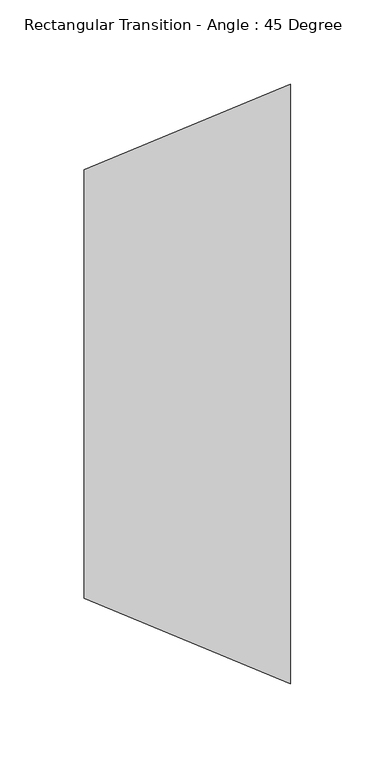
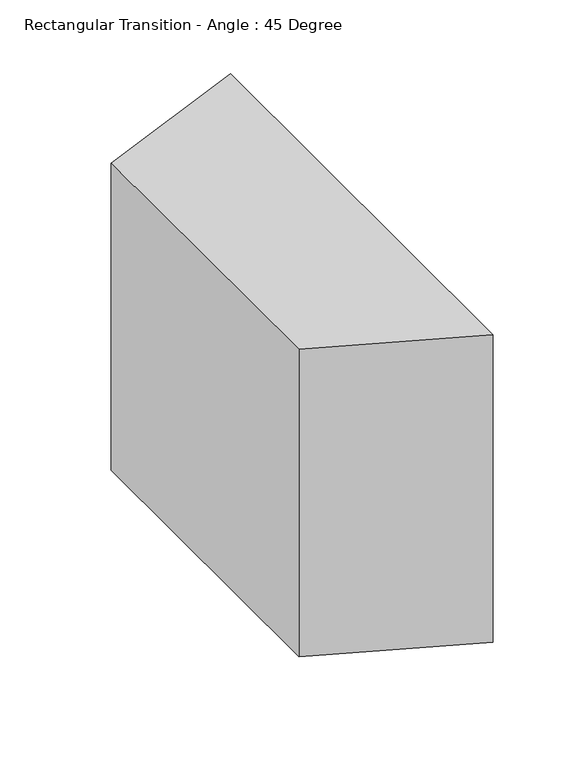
"""IFC4 building model written with IfcOpenShell, lengths in millimetres: duct fitting geometry, Rectangular Transition - Angle : 45 Degree."""

import ifcopenshell
import ifcopenshell.guid

model = None  # the IFC model being written
_history = None  # IfcOwnerHistory: only IFC2X3 demands one
_inside = {}  # id of a spatial element -> (the spatial element, [elements in it])
_under = {}  # id of a project, library or spatial element -> (it, [spatial elements below it])
_declared = {}  # id of a project -> (the project, [libraries it declares])
_typed = {}  # id of a type object -> (the type object, [elements of that type])
_made_of = {}  # id of a material, layer set ... -> (it, [elements and type objects made of it])


def new_model(schema):
    """Start an empty IFC model of exactly this schema.

    Asked for "IFC4X3", IfcOpenShell would pick the latest addendum, in which some entities
    have other attributes; the version numbers below select the first issue.
    IFC2X3 requires an IfcOwnerHistory on every rooted entity: one is made here for all.
    """
    global model, _history
    if schema == "IFC4X3":
        model = ifcopenshell.file(schema_version=(4, 3, 0, 0))
    else:
        model = ifcopenshell.file(schema=schema)
    _inside.clear()
    _under.clear()
    _declared.clear()
    _typed.clear()
    _made_of.clear()
    _history = None
    if model.schema == "IFC2X3":
        org = make("IfcOrganization", Name="unknown")
        user = make(
            "IfcPersonAndOrganization",
            ThePerson=make("IfcPerson", FamilyName="unknown"),
            TheOrganization=org,
        )
        app = make(
            "IfcApplication",
            ApplicationDeveloper=org,
            Version="unknown",
            ApplicationFullName="unknown",
            ApplicationIdentifier="unknown",
        )
        _history = make(
            "IfcOwnerHistory",
            OwningUser=user,
            OwningApplication=app,
            ChangeAction="ADDED",
            CreationDate=0,
        )
    return model


def make(cls, **values):
    """One entity of the class cls with the attributes given. An attribute that is None is left unset."""
    return model.create_entity(
        cls, **{name: value for name, value in values.items() if value is not None}
    )


def rooted(cls, **values):
    """An entity with a GlobalId (a new one), such as an element, a storey or a relation."""
    return make(cls, GlobalId=ifcopenshell.guid.new(), OwnerHistory=_history, **values)


def si_unit(unit_type, name, prefix=None):
    """IfcSIUnit, for example si_unit("LENGTHUNIT", "METRE", prefix="MILLI")."""
    return make("IfcSIUnit", UnitType=unit_type, Prefix=prefix, Name=name)


def assignment(units):
    """IfcUnitAssignment: the units of a project."""
    return None if units is None else make("IfcUnitAssignment", Units=units)


def point(xyz):
    """IfcCartesianPoint."""
    return None if xyz is None else make("IfcCartesianPoint", Coordinates=xyz)


def direction(xyz):
    """IfcDirection."""
    return None if xyz is None else make("IfcDirection", DirectionRatios=xyz)


def frame(location, z_axis=None, x_axis=None):
    """IfcAxis2Placement3D, a coordinate frame: its origin and axes. An axis left out is left unset."""
    return make(
        "IfcAxis2Placement3D",
        Location=point(location),
        Axis=direction(z_axis),
        RefDirection=direction(x_axis),
    )


def origin():
    """The frame at (0, 0, 0) with its axes left unset."""
    return frame((0.0, 0.0, 0.0))


def place(relative_to, where):
    """IfcLocalPlacement: puts the frame where relative to a parent placement (None: the world)."""
    return make(
        "IfcLocalPlacement", PlacementRelTo=relative_to, RelativePlacement=where
    )


def context(
    kind, dimensions, precision=None, world=None, true_north=None, identifier=None
):
    """IfcGeometricRepresentationContext, for example the 3D "Model" context."""
    return make(
        "IfcGeometricRepresentationContext",
        ContextIdentifier=identifier,
        ContextType=kind,
        CoordinateSpaceDimension=dimensions,
        Precision=precision,
        WorldCoordinateSystem=world,
        TrueNorth=true_north,
    )


def project(units=None, contexts=None):
    """IfcProject with its units and contexts."""
    return rooted(
        "IfcProject",
        Name="project",
        RepresentationContexts=contexts,
        UnitsInContext=assignment(units),
    )


def spatial(cls, under=None, at=None, **own):
    """A site, building, storey or space (cls), placed at a placement, below another one or the project."""
    s = rooted(cls, ObjectPlacement=at, **own)
    if under is not None:
        _under.setdefault(under.id(), (under, []))[1].append(s)
    return s


def polyline(points):
    """IfcPolyline through the points."""
    return make("IfcPolyline", Points=[point(p) for p in points])


def outline(outer, holes=None, kind="AREA"):
    """IfcArbitraryClosedProfileDef: a profile drawn as a closed curve; with holes, ...WithVoids."""
    if holes is None:
        return make("IfcArbitraryClosedProfileDef", ProfileType=kind, OuterCurve=outer)
    return make(
        "IfcArbitraryProfileDefWithVoids",
        ProfileType=kind,
        OuterCurve=outer,
        InnerCurves=holes,
    )


def extrude(swept, where, along, depth):
    """IfcExtrudedAreaSolid: the profile swept, set in the frame where, extruded along a direction by depth."""
    return make(
        "IfcExtrudedAreaSolid",
        SweptArea=swept,
        Position=where,
        ExtrudedDirection=direction(along),
        Depth=depth,
    )


def shape(context_of_items, identifier, shape_type, items):
    """IfcShapeRepresentation: the items that make up one representation, for example the "Body"."""
    return make(
        "IfcShapeRepresentation",
        ContextOfItems=context_of_items,
        RepresentationIdentifier=identifier,
        RepresentationType=shape_type,
        Items=items,
    )


def source(mapping_origin, context_of_items, identifier, shape_type, items):
    """IfcRepresentationMap: a shape defined once, which mapped items show again and again."""
    return make(
        "IfcRepresentationMap",
        MappingOrigin=mapping_origin,
        MappedRepresentation=shape(context_of_items, identifier, shape_type, items),
    )


def transform(
    local_origin,
    x_axis=None,
    y_axis=None,
    z_axis=None,
    scale=None,
    scale2=None,
    scale3=None,
    uniform=True,
):
    """IfcCartesianTransformationOperator3D, or its non-uniform kind. x_axis, y_axis, z_axis: its Axis1, 2, 3."""
    if uniform:
        return make(
            "IfcCartesianTransformationOperator3D",
            Axis1=direction(x_axis),
            Axis2=direction(y_axis),
            LocalOrigin=point(local_origin),
            Scale=scale,
            Axis3=direction(z_axis),
        )
    return make(
        "IfcCartesianTransformationOperator3DnonUniform",
        Axis1=direction(x_axis),
        Axis2=direction(y_axis),
        LocalOrigin=point(local_origin),
        Scale=scale,
        Axis3=direction(z_axis),
        Scale2=scale2,
        Scale3=scale3,
    )


def mapped(mapping_source, mapping_target):
    """IfcMappedItem: shows the shape of a source again, moved by a transform."""
    return make(
        "IfcMappedItem", MappingSource=mapping_source, MappingTarget=mapping_target
    )


def made_of(thing, what):
    """Note that an element or type object is made of a material, layer set ...; save() writes the relation."""
    if what is not None:
        _made_of.setdefault(what.id(), (what, []))[1].append(thing)
    return thing


def element(
    cls,
    number,
    at=None,
    inside=None,
    cuts=None,
    type_object=None,
    material=None,
    context=None,
    identifier="Body",
    shape_type=None,
    held_by="IfcProductDefinitionShape",
    body=None,
    shapes=None,
    **own,
):
    """One element of the class cls, such as IfcWall. Its Tag is "e" and its number.

    at: its placement. inside: the storey or other place that contains it. cuts: it is an
    opening in that element (IfcRelVoidsElement). A single representation is given by context,
    identifier, shape_type and body (its items); several are given by shapes. held_by: the class
    of the entity that holds the representations. save() writes the other relations.
    """
    e = rooted(cls, Tag="e%d" % number, ObjectPlacement=at, **own)
    if body is not None:
        shapes = [shape(context, identifier, shape_type, body)]
    if shapes is not None:
        e.Representation = make(held_by, Representations=shapes)
    if inside is not None:
        _inside.setdefault(inside.id(), (inside, []))[1].append(e)
    if cuts is not None:
        rooted(
            "IfcRelVoidsElement", RelatingBuildingElement=cuts, RelatedOpeningElement=e
        )
    if type_object is not None:
        _typed.setdefault(type_object.id(), (type_object, []))[1].append(e)
    return made_of(e, material)


def aggregate(whole, parts):
    """IfcRelAggregates: a whole, such as a stair, and the parts it consists of."""
    return rooted("IfcRelAggregates", RelatingObject=whole, RelatedObjects=parts)


def save(model, path):
    """Write the relations noted so far, then the file.

    IfcRelAggregates (storeys below a building ...), IfcRelContainedInSpatialStructure (elements
    in a storey), IfcRelDefinesByType, IfcRelAssociatesMaterial and IfcRelDeclares: one each for
    every whole, place, type object, material and project.
    """
    for whole, parts in _under.values():
        aggregate(whole, parts)
    for where, things in _inside.values():
        rooted(
            "IfcRelContainedInSpatialStructure",
            RelatedElements=things,
            RelatingStructure=where,
        )
    for kind, things in _typed.values():
        rooted("IfcRelDefinesByType", RelatedObjects=things, RelatingType=kind)
    for what, things in _made_of.values():
        rooted("IfcRelAssociatesMaterial", RelatedObjects=things, RelatingMaterial=what)
    for by, libraries in _declared.values():
        rooted("IfcRelDeclares", RelatingContext=by, RelatedDefinitions=libraries)
    model.write(path)


def rectangular_transition_angle_45_degree_e4fa7590(model_context):
    return source(origin(), model_context, "Body", "SweptSolid", [
        extrude(outline(polyline([(0.0, -127.0), (0.0, 127.0), (122.642049, 177.8), (122.642049, -177.8), (0.0, -127.0)])), frame((0.0, 0.0, -127.0), z_axis=(0.0, 0.0, 1.0), x_axis=(1.0, 0.0, 0.0)), (0.0, 0.0, 1.0), 254.0),
    ])


if __name__ == "__main__":
    model = new_model("IFC4")
    model_context = context("Model", 3, world=origin())
    ifc_project = project(units=[si_unit("LENGTHUNIT", "METRE", prefix="MILLI")], contexts=[model_context])
    site = spatial("IfcSite", under=ifc_project)
    building = spatial("IfcBuilding", under=site)
    placement = place(None, origin())
    rectangular_transition_angle_45_degree_shape = rectangular_transition_angle_45_degree_e4fa7590(model_context)
    element("IfcDuctFitting", 1, ObjectType="Rectangular Transition - Angle : 45 Degree", at=placement, inside=building, context=model_context, shape_type="MappedRepresentation", body=[
        mapped(rectangular_transition_angle_45_degree_shape, transform((0.0, 0.0, 0.0), x_axis=(1.0, 0.0, 0.0), y_axis=(0.0, 1.0, 0.0), z_axis=(0.0, 0.0, 1.0))),
    ])
    save(model, "model.ifc")
